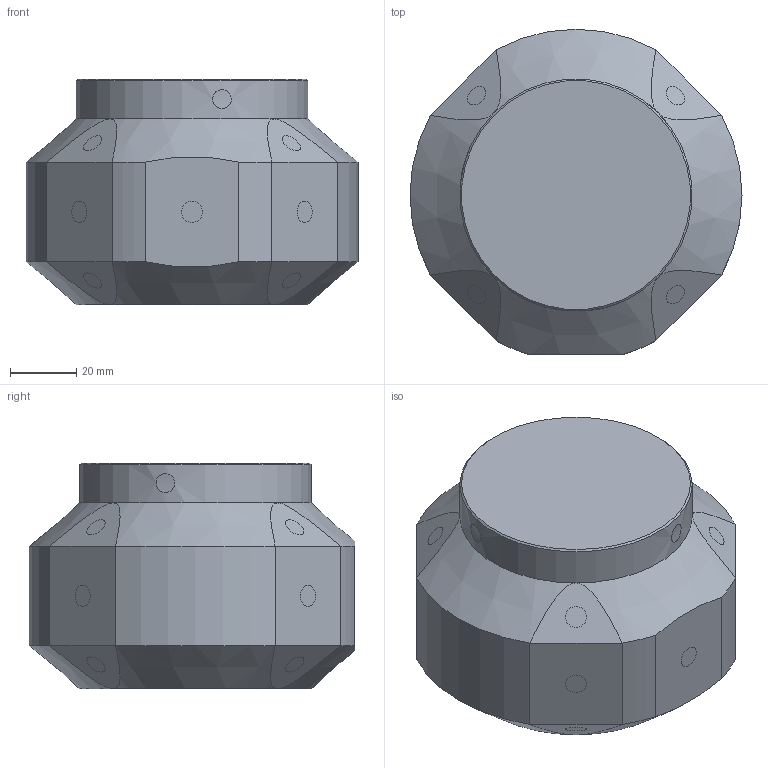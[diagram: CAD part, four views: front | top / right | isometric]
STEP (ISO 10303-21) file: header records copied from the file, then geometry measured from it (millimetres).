
FILE_DESCRIPTION(/* description */ (''),/* implementation_level */ '2;1');
FILE_NAME(/* name */ 'LA-3060-4603-A_UCT SPHERE MOUNT.stp',/* time_stamp */ '2026-03-17T14:48:15Z',/* author */ (''),/* organization */ (''),/* preprocessor_version */ 'ST-DEVELOPER v20',/* originating_system */ 'SIEMENS PLM Software NX2312.9162',/* authorisation */ '');
FILE_SCHEMA (('AUTOMOTIVE_DESIGN { 1 0 10303 214 3 1 1 1 }'));
Length unit declared in the file: millimetre
Products named in the file (1): LA-3060-4603_objects
Bounding box: 100 x 98 x 68 mm (x, y, z)
Volume: 423674.9 mm3; surface area: 29974.3 mm2
Topology: 1 solids, 1 shells, 46 faces, 74 edges, 46 vertices
Faces by surface type: plane 28, cone 9, cylinder 9
Full cylindrical faces by diameter (mm): 70 x1
Entity records: 1370 total; most frequent: CARTESIAN_POINT 391, DIRECTION 178, ORIENTED_EDGE 144, AXIS2_PLACEMENT_3D 80, EDGE_CURVE 72, EDGE_LOOP 64, ADVANCED_FACE 46, VERTEX_POINT 46
